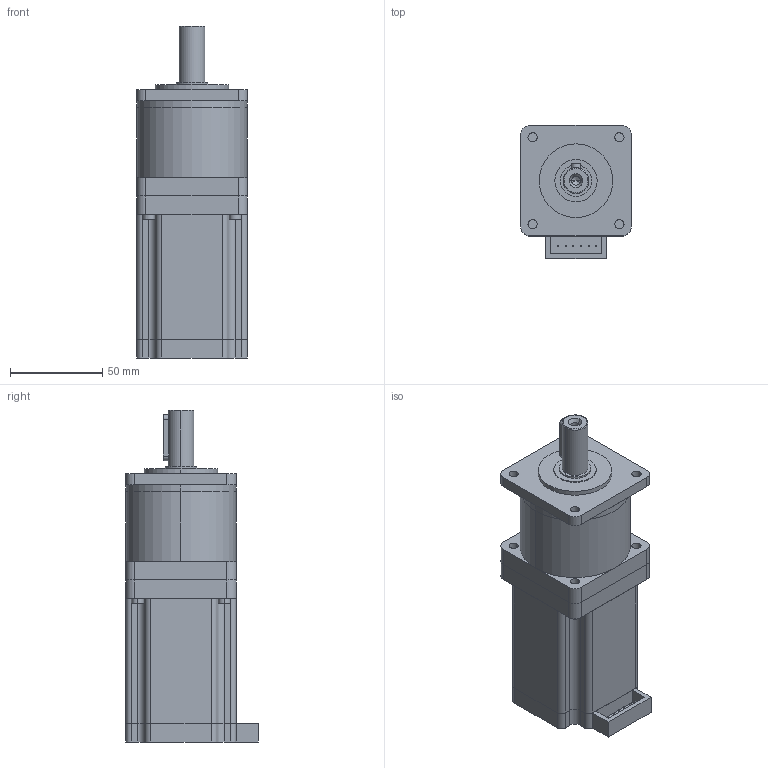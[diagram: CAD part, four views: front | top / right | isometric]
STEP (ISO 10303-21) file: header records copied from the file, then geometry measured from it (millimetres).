
FILE_DESCRIPTION (( 'STEP AP203' ), '1' );
FILE_NAME ('60PG020-D40-0488.STEP', '2019-09-21T07:03:52', ( 'China' ), ( 'Home' ), 'SwSTEP 2.0', 'SolidWorks 2016', '' );
FILE_SCHEMA (( 'CONFIG_CONTROL_DESIGN' ));
Length unit declared in the file: millimetre
Products named in the file (1): 60PG020-D40-0488
Bounding box: 60 x 72 x 180.3 mm (x, y, z)
Volume: 466737 mm3; surface area: 76451.9 mm2
Topology: 11 solids, 11 shells, 218 faces, 540 edges, 355 vertices
Faces by surface type: plane 132, cylinder 80, cone 4, bspline 2
Entity records: 6641 total; most frequent: CARTESIAN_POINT 1211, DIRECTION 1130, ORIENTED_EDGE 1076, EDGE_CURVE 538, AXIS2_PLACEMENT_3D 380, LINE 370, VECTOR 370, VERTEX_POINT 355
